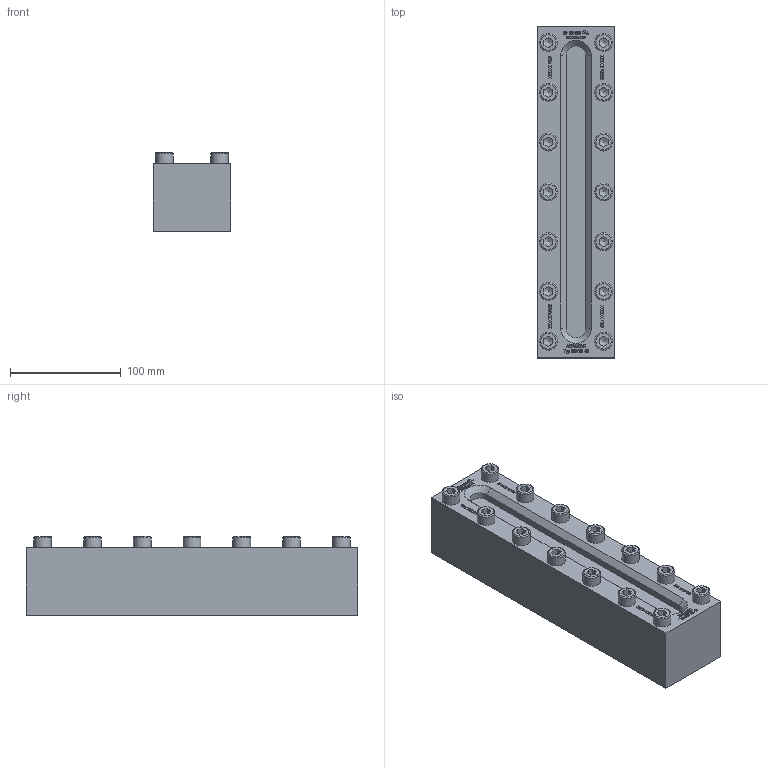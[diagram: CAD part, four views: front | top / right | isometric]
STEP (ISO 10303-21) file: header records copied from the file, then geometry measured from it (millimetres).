
FILE_DESCRIPTION(/* description */ (''),/* implementation_level */ '2;1');
FILE_NAME(/* name */ 'W:\Konstruktion_ACI\330\_Zeichnungen\STEP\ACI-330-300-40.stp',/* time_stamp */ '2022-03-01T17:11:57+01:00',/* author */ ('koslowksi'),/* organization */ (''),/* preprocessor_version */ 'ST-DEVELOPER v16.1',/* originating_system */ 'Autodesk Inventor 2016',/* authorisation */ '');
FILE_SCHEMA (('AUTOMOTIVE_DESIGN { 1 0 10303 214 3 1 1 }'));
Length unit declared in the file: centimetre
Products named in the file (1): ACI-330-300-40.stp
Bounding box: 70 x 300 x 70.9 mm (x, y, z)
Volume: 1151872.5 mm3; surface area: 111465 mm2
Topology: 1 solids, 1 shells, 1256 faces, 3390 edges, 2254 vertices
Faces by surface type: plane 906, bspline 302, cylinder 18, cone 16, torus 14
Full cylindrical faces by diameter (mm): 16 x14
Entity records: 41140 total; most frequent: CARTESIAN_POINT 10897, ORIENTED_EDGE 6640, DIRECTION 4594, EDGE_CURVE 3320, LINE 2580, VECTOR 2580, VERTEX_POINT 2226, EDGE_LOOP 1416
